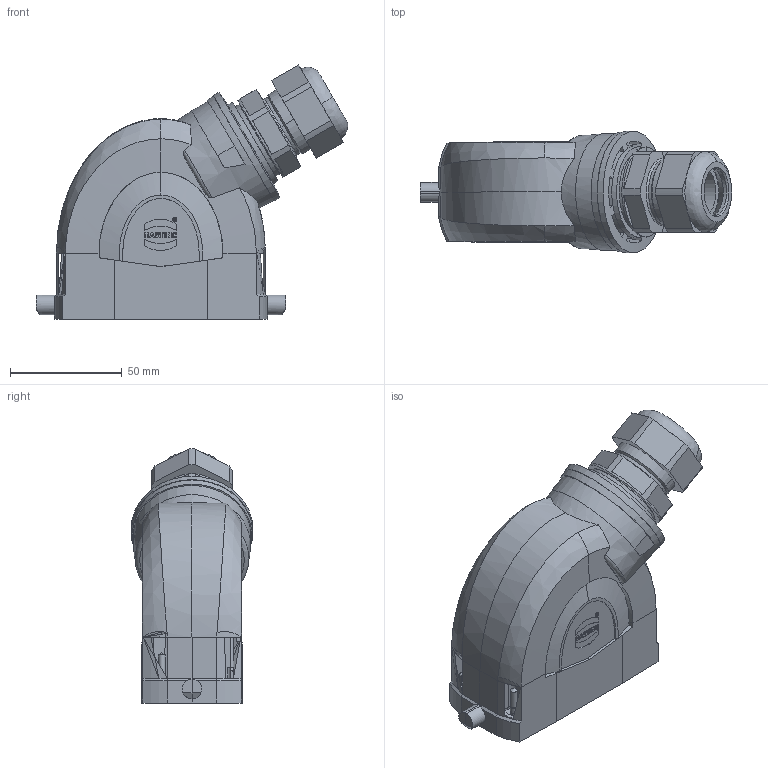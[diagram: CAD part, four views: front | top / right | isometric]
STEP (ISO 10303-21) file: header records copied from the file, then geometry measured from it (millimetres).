
FILE_DESCRIPTION(/* description */ (''),/* implementation_level */ '2;1');
FILE_NAME(/* name */ '100779580ugm000_b.stp',/* time_stamp */ '2022-03-12T08:05:36+01:00',/* author */ (''),/* organization */ (''),/* preprocessor_version */ 'ST-DEVELOPER v16.7',/* originating_system */ 'SIEMENS PLM Software NX 1911',/* authorisation */ '');
FILE_SCHEMA (('AUTOMOTIVE_DESIGN { 1 0 10303 214 3 1 1 1 }'));
Length unit declared in the file: millimetre
Products named in the file (1): 100779580ugm000_b
Bounding box: 139.25 x 54.4 x 113.62 mm (x, y, z)
Volume: 131113.4 mm3; surface area: 69445.7 mm2
Topology: 4 solids, 4 shells, 602 faces, 1690 edges, 1205 vertices
Faces by surface type: plane 337, cylinder 103, cone 79, bspline 56, revolution 16, extrusion 7, torus 4
Full cylindrical faces by diameter (mm): 1.594 x1, 1.884 x1, 3 x4, 3.4 x4, 3.5 x4, 32 x1, 36 x1, 38 x1, 48.9 x1, 54.4 x1
Entity records: 26380 total; most frequent: CARTESIAN_POINT 7218, ORIENTED_EDGE 3068, DIRECTION 2821, EDGE_CURVE 1534, VERTEX_POINT 1006, AXIS2_PLACEMENT_3D 971, VECTOR 863, LINE 856
